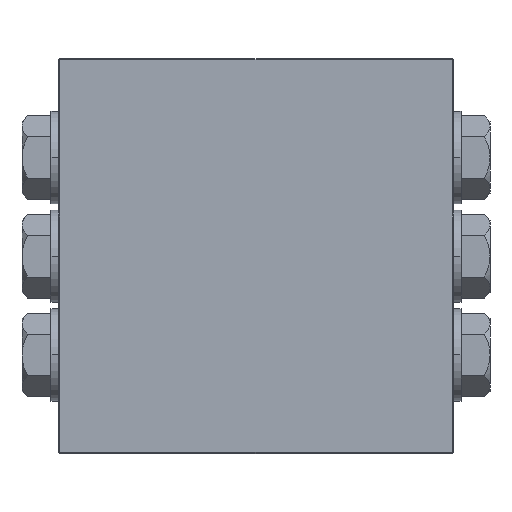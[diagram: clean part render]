
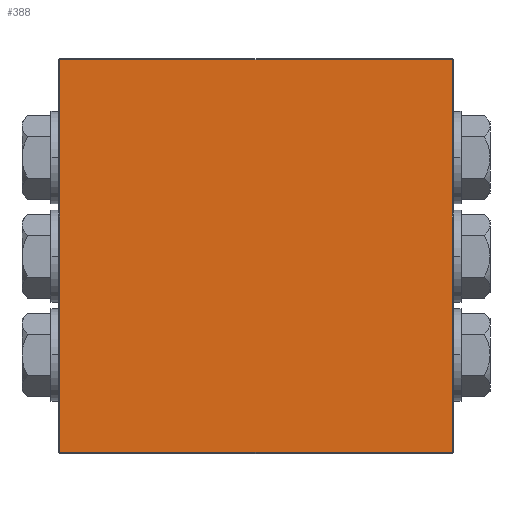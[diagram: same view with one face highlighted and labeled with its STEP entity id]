
A CAD part, top view. The second image highlights one B-rep face of the part: STEP entity #388.
In plain terms, the highlighted planar face has unit normal (0, 0, 1).
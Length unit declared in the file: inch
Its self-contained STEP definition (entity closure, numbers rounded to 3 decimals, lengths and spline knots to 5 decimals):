
#81=DIRECTION('',(0.,-1.,0.));
#82=VECTOR('',#81,2.34646);
#83=CARTESIAN_POINT('',(-1.17323,-0.00787,1.1811));
#84=LINE('',#83,#82);
#85=DIRECTION('',(-1.,0.,0.));
#86=VECTOR('',#85,2.34646);
#87=CARTESIAN_POINT('',(1.17323,-0.00787,1.1811));
#88=LINE('',#87,#86);
#89=DIRECTION('',(0.,1.,0.));
#90=VECTOR('',#89,2.34646);
#91=CARTESIAN_POINT('',(1.17323,-2.35433,1.1811));
#92=LINE('',#91,#90);
#93=DIRECTION('',(1.,0.,0.));
#94=VECTOR('',#93,2.34646);
#95=CARTESIAN_POINT('',(-1.17323,-2.35433,1.1811));
#96=LINE('',#95,#94);
#205=CARTESIAN_POINT('',(-1.17323,-0.00787,
1.1811));
#206=CARTESIAN_POINT('',(-1.17323,-2.35433,1.1811));
#207=VERTEX_POINT('',#205);
#208=VERTEX_POINT('',#206);
#213=CARTESIAN_POINT('',(1.17323,-2.35433,1.1811));
#214=VERTEX_POINT('',#213);
#231=CARTESIAN_POINT('',(1.17323,-0.00787,1.1811));
#232=VERTEX_POINT('',#231);
#374=CARTESIAN_POINT('',(0.,0.,1.1811));
#375=DIRECTION('',(0.,0.,1.));
#376=DIRECTION('',(1.,0.,0.));
#377=AXIS2_PLACEMENT_3D('',#374,#375,#376);
#378=PLANE('',#377);
#380=ORIENTED_EDGE('',*,*,#379,.F.);
#381=ORIENTED_EDGE('',*,*,#361,.F.);
#383=ORIENTED_EDGE('',*,*,#382,.F.);
#385=ORIENTED_EDGE('',*,*,#384,.F.);
#386=EDGE_LOOP('',(#380,#381,#383,#385));
#387=FACE_OUTER_BOUND('',#386,.F.);
#388=ADVANCED_FACE('',(#387),#378,.T.);
#361=EDGE_CURVE('',#232,#207,#88,.T.);
#379=EDGE_CURVE('',#207,#208,#84,.T.);
#382=EDGE_CURVE('',#214,#232,#92,.T.);
#384=EDGE_CURVE('',#208,#214,#96,.T.);
